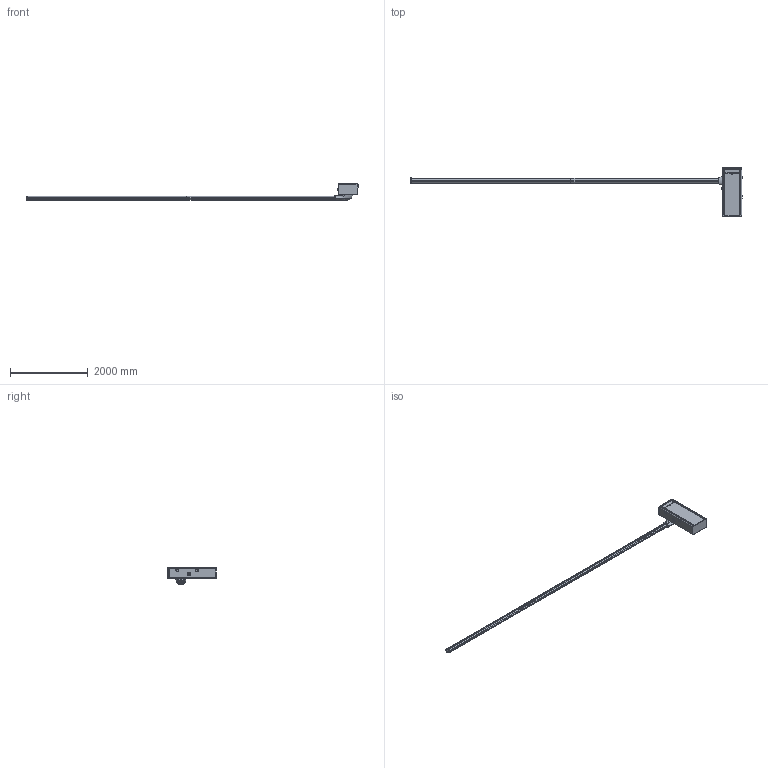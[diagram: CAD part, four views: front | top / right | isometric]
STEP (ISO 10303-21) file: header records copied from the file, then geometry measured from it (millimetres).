
FILE_DESCRIPTION (( 'STEP AP214' ), '1' );
FILE_NAME ('BI-008.STEP', '2020-03-03T14:58:33', ( '' ), ( '' ), 'SwSTEP 2.0', 'SolidWorks 2016', '' );
FILE_SCHEMA (( 'AUTOMOTIVE_DESIGN' ));
Length unit declared in the file: millimetre
Products named in the file (1): BI-008
Bounding box: 8522.78 x 1241 x 435.9 mm (x, y, z)
Volume: 254580045.1 mm3; surface area: 9334663 mm2
Topology: 35 solids, 36 shells, 6881 faces, 16457 edges, 9805 vertices
Faces by surface type: bspline 3107, plane 1708, cylinder 1458, cone 545, torus 38, sphere 25
Full cylindrical faces by diameter (mm): 3.25 x16, 4.6 x4, 5 x4, 5.147 x1, 5.3 x4, 5.5 x8, 6.092 x1, 9 x12, 10 x4, 12.3 x8, 12.7 x4, 13 x4, 13.8 x1, 14 x1, 15 x4, 19 x1, 22 x1, 25 x3, 26 x1, 26.4 x1, 28 x1, 28.4 x1, 111 x1
Entity records: 490464 total; most frequent: CARTESIAN_POINT 279321, ORIENTED_EDGE 32502, DIRECTION 21035, EDGE_CURVE 16251, VERTEX_POINT 9786, AXIS2_PLACEMENT_3D 7577, EDGE_LOOP 7257, FACE_OUTER_BOUND 6979
